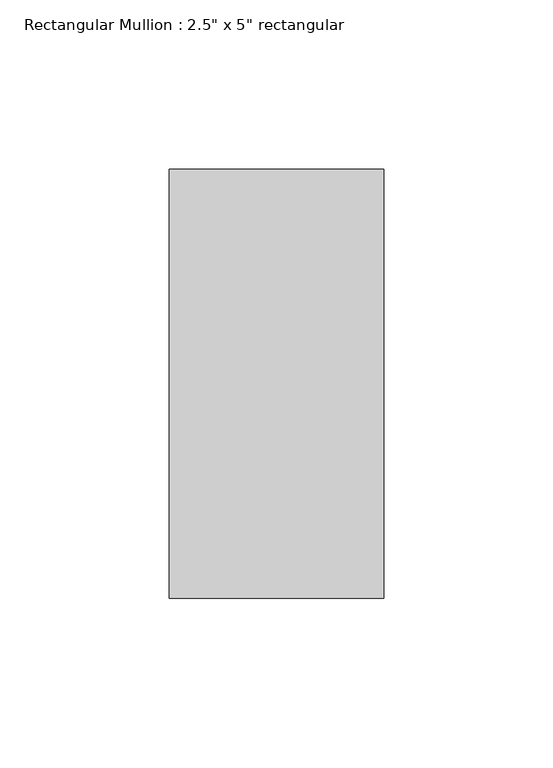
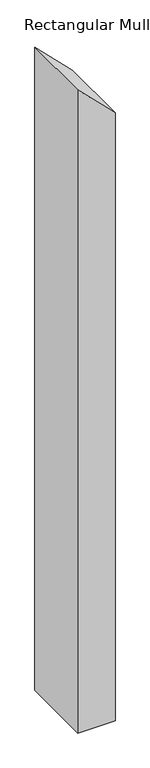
"""IFC4 building model written with IfcOpenShell, lengths in millimetres: member geometry."""

from ifc_helpers import new_model, si_unit, frame, origin, place, context, project, spatial, polyline, outline, extrude, source, transform, mapped, element, save


def member_91481059(model_context):
    return source(origin(), model_context, "Body", "SweptSolid", [
        extrude(outline(polyline([(-121.5525612, 31.75), (-58.0525612, -31.75), (-1219.2000002, -31.75), (-1219.2000002, 31.75), (-121.5525612, 31.75)])), frame((0.0, -63.5, 0.0), z_axis=(0.0, 1.0, 0.0), x_axis=(0.0, 0.0, 1.0)), (0.0, 0.0, 1.0), 127.0),
    ])


if __name__ == "__main__":
    model = new_model("IFC4")
    model_context = context("Model", 3, world=origin())
    ifc_project = project(units=[si_unit("LENGTHUNIT", "METRE", prefix="MILLI")], contexts=[model_context])
    site = spatial("IfcSite", under=ifc_project)
    building = spatial("IfcBuilding", under=site)
    placement = place(None, origin())
    member_shape = member_91481059(model_context)
    element("IfcMember", 1, ObjectType="Rectangular Mullion : 2.5\" x 5\" rectangular", at=placement, inside=building, context=model_context, shape_type="MappedRepresentation", body=[
        mapped(member_shape, transform((0.0, 0.0, 0.0), x_axis=(1.0, 0.0, 0.0), y_axis=(0.0, 1.0, 0.0), z_axis=(0.0, 0.0, 1.0))),
    ])
    save(model, "model.ifc")
